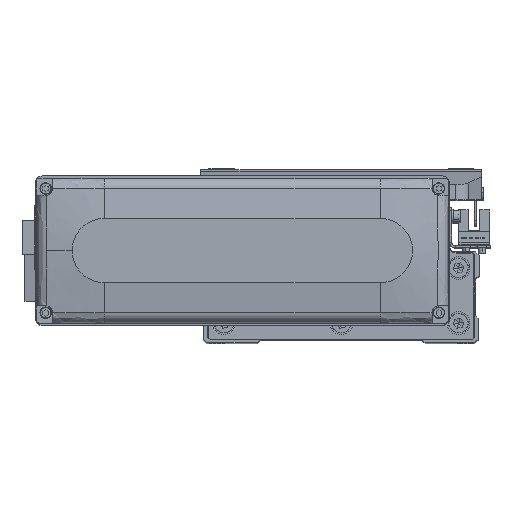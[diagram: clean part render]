
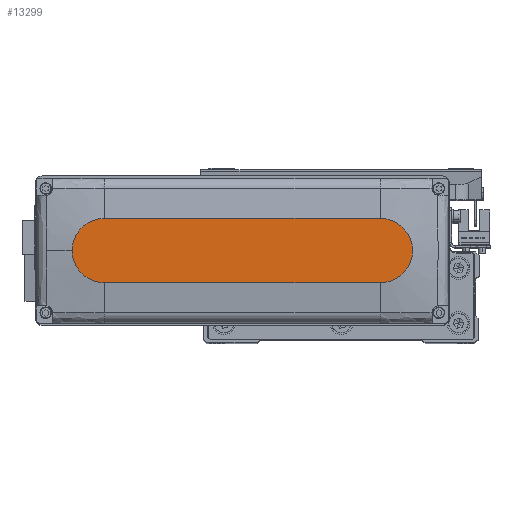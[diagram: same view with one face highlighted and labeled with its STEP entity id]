
A CAD part, top view. The second image highlights one B-rep face of the part: STEP entity #13299.
In plain terms, the highlighted planar face has unit normal (0, 0, 1).
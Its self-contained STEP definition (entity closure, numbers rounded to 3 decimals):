
#469 = ORIENTED_EDGE ( 'NONE', *, *, #14346, .T. ) ;
#1904 = VECTOR ( 'NONE', #32417, 1000. ) ;
#2487 = DIRECTION ( 'NONE',  ( 1., 0., 0. ) ) ;
#3050 = ORIENTED_EDGE ( 'NONE', *, *, #30039, .T. ) ;
#4054 = CARTESIAN_POINT ( 'NONE',  ( -60., -14., 28.5 ) ) ;
#5180 = CIRCLE ( 'NONE', #28698, 14. ) ;
#5596 = AXIS2_PLACEMENT_3D ( 'NONE', #37886, #9090, #21902 ) ;
#5642 = PLANE ( 'NONE',  #12702 ) ;
#6753 = LINE ( 'NONE', #19582, #1904 ) ;
#7432 = CARTESIAN_POINT ( 'NONE',  ( 60., -14., 28.5 ) ) ;
#8464 = CARTESIAN_POINT ( 'NONE',  ( 74., 0., 28.5 ) ) ;
#8569 = VECTOR ( 'NONE', #25615, 1000. ) ;
#8739 = DIRECTION ( 'NONE',  ( 0., 0., 1. ) ) ;
#9090 = DIRECTION ( 'NONE',  ( 0., 0., 1. ) ) ;
#9165 = AXIS2_PLACEMENT_3D ( 'NONE', #40012, #11205, #24024 ) ;
#10500 = ORIENTED_EDGE ( 'NONE', *, *, #26335, .T. ) ;
#11179 = ORIENTED_EDGE ( 'NONE', *, *, #18242, .T. ) ;
#11205 = DIRECTION ( 'NONE',  ( 0., 0., 1. ) ) ;
#12702 = AXIS2_PLACEMENT_3D ( 'NONE', #18481, #31314, #2487 ) ;
#12808 = CARTESIAN_POINT ( 'NONE',  ( -60., 14., 28.5 ) ) ;
#13204 = ORIENTED_EDGE ( 'NONE', *, *, #17299, .T. ) ;
#13299 = ADVANCED_FACE ( 'NONE', ( #34466 ), #5642, .T. ) ;
#13962 = VERTEX_POINT ( 'NONE', #4054 ) ;
#14346 = EDGE_CURVE ( 'NONE', #13962, #22498, #6753, .T. ) ;
#15456 = EDGE_LOOP ( 'NONE', ( #10500, #3050, #469, #11179, #13204 ) ) ;
#16472 = VERTEX_POINT ( 'NONE', #8464 ) ;
#17299 = EDGE_CURVE ( 'NONE', #16472, #29748, #27295, .T. ) ;
#17779 = VERTEX_POINT ( 'NONE', #40175 ) ;
#18242 = EDGE_CURVE ( 'NONE', #22498, #16472, #5180, .T. ) ;
#18481 = CARTESIAN_POINT ( 'NONE',  ( 0., 0., 28.5 ) ) ;
#19582 = CARTESIAN_POINT ( 'NONE',  ( -60., -14., 28.5 ) ) ;
#21551 = DIRECTION ( 'NONE',  ( 1., 0., 0. ) ) ;
#21902 = DIRECTION ( 'NONE',  ( 1., 0., 0. ) ) ;
#22408 = CARTESIAN_POINT ( 'NONE',  ( 60., 14., 28.5 ) ) ;
#22498 = VERTEX_POINT ( 'NONE', #7432 ) ;
#23736 = CIRCLE ( 'NONE', #5596, 14. ) ;
#24024 = DIRECTION ( 'NONE',  ( 1., 0., 0. ) ) ;
#25615 = DIRECTION ( 'NONE',  ( -1., 0., 0. ) ) ;
#26335 = EDGE_CURVE ( 'NONE', #29748, #17779, #35369, .T. ) ;
#27295 = CIRCLE ( 'NONE', #9165, 14. ) ;
#28698 = AXIS2_PLACEMENT_3D ( 'NONE', #37537, #8739, #21551 ) ;
#29748 = VERTEX_POINT ( 'NONE', #22408 ) ;
#30039 = EDGE_CURVE ( 'NONE', #17779, #13962, #23736, .T. ) ;
#31314 = DIRECTION ( 'NONE',  ( 0., 0., 1. ) ) ;
#32417 = DIRECTION ( 'NONE',  ( 1., 0., 0. ) ) ;
#34466 = FACE_OUTER_BOUND ( 'NONE', #15456, .T. ) ;
#35369 = LINE ( 'NONE', #12808, #8569 ) ;
#37537 = CARTESIAN_POINT ( 'NONE',  ( 60., 0., 28.5 ) ) ;
#37886 = CARTESIAN_POINT ( 'NONE',  ( -60., 0., 28.5 ) ) ;
#40012 = CARTESIAN_POINT ( 'NONE',  ( 60., 0., 28.5 ) ) ;
#40175 = CARTESIAN_POINT ( 'NONE',  ( -60., 14., 28.5 ) ) ;
